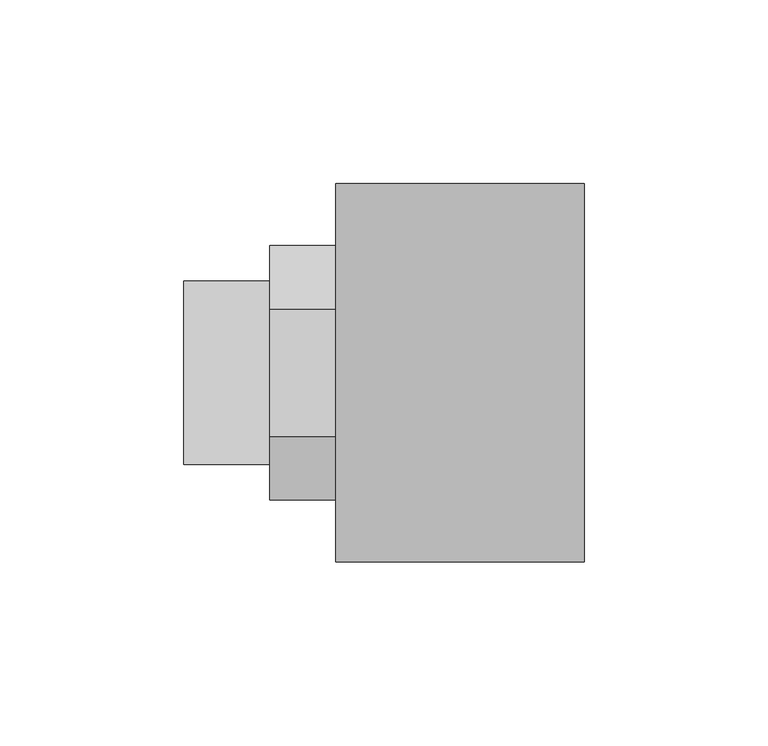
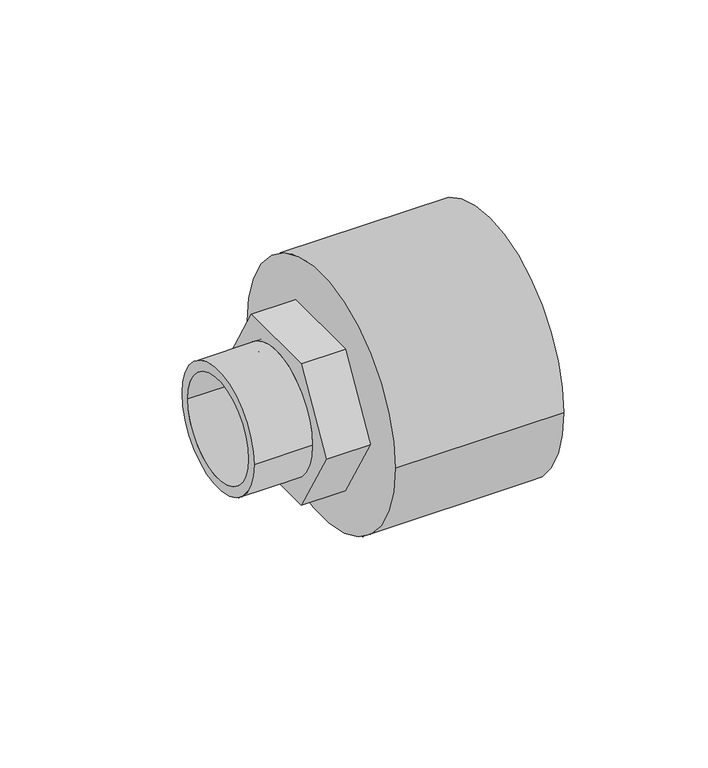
"""IFC4 building model written with IfcOpenShell, lengths in millimetres: pipe fitting geometry, NIRON RED termofusion roscado enlace rosca macho hexagonal : Estándar."""

from ifc_helpers import new_model, si_unit, point, frame, origin, origin_2d, place, context, project, spatial, polyline, circle_curve, trimmed, segment, composite_curve, outline, extrude, source, transform, mapped, element, save
from ifc_brep_helpers import plane_surface, cylinder_surface, revolved_surface, advanced_brep


def pipe_fitting_a6b28084(model_context):
    return source(origin(), model_context, "Body", "SolidModel", [
        extrude(outline(composite_curve([segment(trimmed(circle_curve(origin_2d(), 25.0), [point((-25.0, 0.0))], [point((25.0, 0.0))], False, "CARTESIAN"), True, "CONTINUOUS"), segment(trimmed(circle_curve(origin_2d(), 25.0), [point((25.0, 0.0))], [point((-25.0, 0.0))], False, "CARTESIAN"), True, "CONTINUOUS")], self_intersect=False), holes=[composite_curve([segment(trimmed(circle_curve(origin_2d(), 21.0), [point((-21.0, 0.0))], [point((21.0, 0.0))], True, "CARTESIAN"), True, "CONTINUOUS"), segment(trimmed(circle_curve(origin_2d(), 21.0), [point((21.0, 0.0))], [point((-21.0, 0.0))], True, "CARTESIAN"), True, "CONTINUOUS")], self_intersect=False)]), frame((-23.4, 0.0, 0.0), z_axis=(1.0, 0.0, 0.0), x_axis=(0.0, 1.0, 0.0)), (0.0, 0.0, 1.0), 23.4),
        advanced_brep(
        [(85.6, 51.5, 0.0), (85.6, -51.5, 0.0), (18.0, 51.5, 0.0), (18.0, -51.5, 0.0), (18.0, -25.0, 0.0), (18.0, 25.0, 0.0), (23.7, 25.0, 0.0), (23.7, -25.0, 0.0)],
        [
            (0, 1, circle_curve(frame((85.6, 0.0, 0.0), z_axis=(1.0, 0.0, 0.0), x_axis=(0.0, -1.0, 0.0)), 51.5)),
            (1, 0, circle_curve(frame((85.6, 0.0, 0.0), z_axis=(1.0, 0.0, 0.0), x_axis=(0.0, -1.0, 0.0)), 51.5)),
            (2, 3, circle_curve(frame((18.0, 0.0, 0.0), z_axis=(-1.0, 0.0, 0.0), x_axis=(0.0, -1.0, 0.0)), 51.5)),
            (3, 2, circle_curve(frame((18.0, 0.0, 0.0), z_axis=(-1.0, 0.0, 0.0), x_axis=(0.0, -1.0, 0.0)), 51.5)),
            (4, 5, circle_curve(frame((18.0, 0.0, 0.0), z_axis=(1.0, 0.0, 0.0), x_axis=(0.0, -1.0, 0.0)), 25.0)),
            (5, 4, circle_curve(frame((18.0, 0.0, 0.0), z_axis=(1.0, 0.0, 0.0), x_axis=(0.0, -1.0, 0.0)), 25.0)),
            (1, 3),
            (2, 0),
            (6, 7, circle_curve(frame((23.7, 0.0, 0.0), z_axis=(-1.0, 0.0, 0.0), x_axis=(0.0, -1.0, 0.0)), 25.0)),
            (7, 6, circle_curve(frame((23.7, 0.0, 0.0), z_axis=(-1.0, 0.0, 0.0), x_axis=(0.0, -1.0, 0.0)), 25.0)),
            (6, 5),
            (4, 7),
        ],
        [
            plane_surface(frame((85.6, -51.5, 0.0), z_axis=(1.0, 0.0, 0.0), x_axis=(0.0, 0.0, -1.0))),
            plane_surface(frame((18.0, -51.5, 0.0), z_axis=(-1.0, 0.0, 0.0), x_axis=(0.0, 0.0, 1.0))),
            cylinder_surface(frame((85.6, 0.0, 0.0), z_axis=(-1.0, 0.0, 0.0), x_axis=(0.0, -1.0, 0.0)), 51.5),
            plane_surface(frame((23.7, -25.0, 0.0), z_axis=(-1.0, 0.0, 0.0), x_axis=(0.0, 0.0, -1.0))),
            revolved_surface(polyline([(18.0, -25.0, 0.0), (23.7, -25.0, 0.0)]), (23.7, 0.0, 0.0), (-1.0, 0.0, 0.0)),
        ],
        [
            (0, [[1, 2]]),
            (1, [[3, 4], [5, 6]]),
            (2, [[-2, 7, -3, 8]]),
            (2, [[-1, -8, -4, -7]]),
            (3, [[9, 10]]),
            (4, [[-9, 11, -5, 12]]),
            (4, [[-10, -12, -6, -11]]),
        ],
    ),
        advanced_brep(
        [(45.0, -17.3205081, -30.0), (45.0, 17.3205081, -30.0), (45.0, 34.6410162, 0.0), (45.0, 17.3205081, 30.0), (45.0, -17.3205081, 30.0), (45.0, -34.6410162, 0.0), (0.0, -17.3205081, -30.0), (0.0, -34.6410162, 0.0), (0.0, -17.3205081, 30.0), (0.0, 17.3205081, 30.0), (0.0, 34.6410162, 0.0), (0.0, 17.3205081, -30.0), (0.0, -25.0, 0.0), (0.0, 25.0, 0.0), (23.7, 25.0, 0.0), (23.7, -25.0, 0.0)],
        [
            (0, 1),
            (1, 2),
            (2, 3),
            (3, 4),
            (4, 5),
            (5, 0),
            (6, 7),
            (7, 8),
            (8, 9),
            (9, 10),
            (10, 11),
            (11, 6),
            (12, 13, circle_curve(frame((0.0, 0.0, 0.0), z_axis=(1.0, 0.0, 0.0), x_axis=(0.0, -1.0, 0.0)), 25.0)),
            (13, 12, circle_curve(frame((0.0, 0.0, 0.0), z_axis=(1.0, 0.0, 0.0), x_axis=(0.0, -1.0, 0.0)), 25.0)),
            (0, 6),
            (11, 1),
            (10, 2),
            (9, 3),
            (8, 4),
            (7, 5),
            (14, 15, circle_curve(frame((23.7, 0.0, 0.0), z_axis=(-1.0, 0.0, 0.0), x_axis=(0.0, -1.0, 0.0)), 25.0)),
            (15, 14, circle_curve(frame((23.7, 0.0, 0.0), z_axis=(-1.0, 0.0, 0.0), x_axis=(0.0, -1.0, 0.0)), 25.0)),
            (14, 13),
            (12, 15),
        ],
        [
            plane_surface(frame((45.0, 0.0, 0.0), z_axis=(1.0, 0.0, 0.0), x_axis=(0.0, 0.0, 1.0))),
            plane_surface(frame((0.0, 0.0, 0.0), z_axis=(-1.0, 0.0, 0.0), x_axis=(0.0, 0.0, 1.0))),
            plane_surface(frame((45.0, -17.3205081, -30.0), z_axis=(0.0, 0.0, -1.0), x_axis=(-1.0, 0.0, 0.0))),
            plane_surface(frame((45.0, 17.3205081, -30.0), z_axis=(0.0, 0.8660254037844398, -0.49999999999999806), x_axis=(-1.0, 0.0, 0.0))),
            plane_surface(frame((45.0, 34.6410162, 0.0), z_axis=(0.0, 0.866025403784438, 0.500000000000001), x_axis=(-1.0, 0.0, 0.0))),
            plane_surface(frame((45.0, 17.3205081, 30.0), z_axis=(0.0, 0.0, 1.0), x_axis=(-1.0, 0.0, 0.0))),
            plane_surface(frame((45.0, -17.3205081, 30.0), z_axis=(0.0, -0.8660254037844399, 0.49999999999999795), x_axis=(-1.0, 0.0, 0.0))),
            plane_surface(frame((45.0, -34.6410162, 0.0), z_axis=(0.0, -0.8660254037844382, -0.5000000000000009), x_axis=(-1.0, 0.0, 0.0))),
            plane_surface(frame((23.7, -25.0, 0.0), z_axis=(-1.0, 0.0, 0.0), x_axis=(0.0, 0.0, -1.0))),
            revolved_surface(polyline([(0.0, -25.0, 0.0), (23.7, -25.0, 0.0)]), (23.7, 0.0, 0.0), (-1.0, 0.0, 0.0)),
        ],
        [
            (0, [[1, 2, 3, 4, 5, 6]]),
            (1, [[7, 8, 9, 10, 11, 12], [13, 14]]),
            (2, [[-1, 15, -12, 16]]),
            (3, [[-2, -16, -11, 17]]),
            (4, [[-3, -17, -10, 18]]),
            (5, [[-4, -18, -9, 19]]),
            (6, [[-5, -19, -8, 20]]),
            (7, [[-6, -20, -7, -15]]),
            (8, [[21, 22]]),
            (9, [[-21, 23, -13, 24]]),
            (9, [[-22, -24, -14, -23]]),
        ],
    ),
    ])


if __name__ == "__main__":
    model = new_model("IFC4")
    model_context = context("Model", 3, world=origin())
    ifc_project = project(units=[si_unit("LENGTHUNIT", "METRE", prefix="MILLI")], contexts=[model_context])
    site = spatial("IfcSite", under=ifc_project)
    building = spatial("IfcBuilding", under=site)
    placement = place(None, origin())
    pipe_fitting_shape = pipe_fitting_a6b28084(model_context)
    element("IfcPipeFitting", 1, ObjectType="NIRON RED termofusion roscado enlace rosca macho hexagonal : Estándar", at=placement, inside=building, context=model_context, shape_type="MappedRepresentation", body=[
        mapped(pipe_fitting_shape, transform((0.0, 0.0, 0.0), x_axis=(1.0, 0.0, 0.0), y_axis=(0.0, 1.0, 0.0), z_axis=(0.0, 0.0, 1.0))),
    ])
    save(model, "model.ifc")
